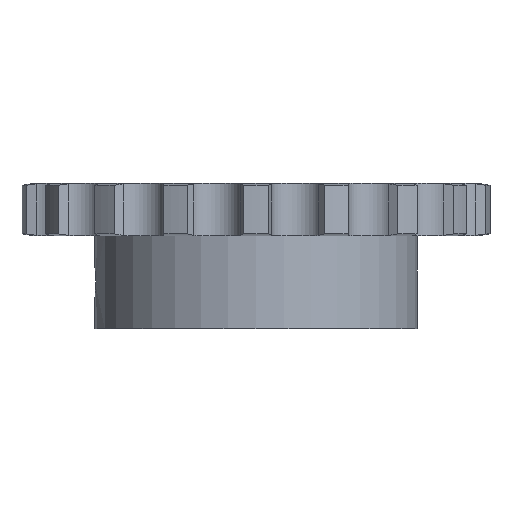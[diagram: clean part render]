
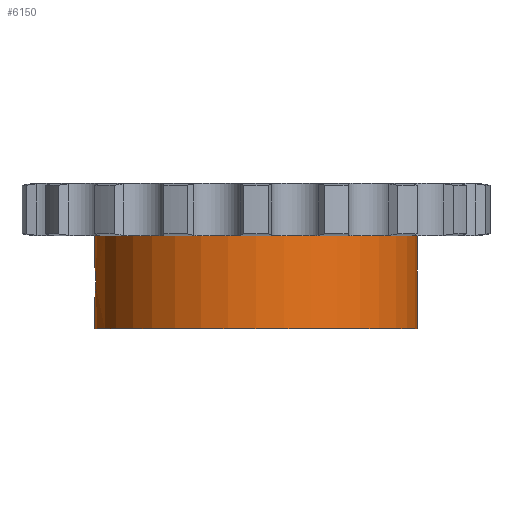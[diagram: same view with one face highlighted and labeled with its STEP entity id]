
A CAD part, front view. The second image highlights one B-rep face of the part: STEP entity #6150.
In plain terms, the highlighted cylindrical face has radius 50 mm (diameter 100 mm), a partial arc.
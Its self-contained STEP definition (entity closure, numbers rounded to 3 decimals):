
#1251=CARTESIAN_POINT('',(0.,0.,-8.1));
#1252=DIRECTION('',(0.,0.,1.));
#1253=DIRECTION('',(-1.,0.,0.));
#1254=AXIS2_PLACEMENT_3D('',#1251,#1252,#1253);
#2958=CARTESIAN_POINT('',(-50.,0.,
-17.5));
#2983=DIRECTION('',(0.,0.,1.));
#2984=VECTOR('',#2983,28.8);
#2985=CARTESIAN_POINT('',(50.,0.,-36.9));
#2986=LINE('',#2985,#2984);
#3112=CARTESIAN_POINT('',(-50.,0.,
-17.5));
#3113=CARTESIAN_POINT('',(-50.,-0.184,
-17.5));
#3114=CARTESIAN_POINT('',(-49.998,-0.58,
-17.521));
#3115=CARTESIAN_POINT('',(-49.987,-1.181,
-17.624));
#3116=CARTESIAN_POINT('',(-49.969,-1.789,
-17.807));
#3117=CARTESIAN_POINT('',(-49.945,-2.369,
-18.063));
#3118=CARTESIAN_POINT('',(-49.916,-2.912,
-18.389));
#3119=CARTESIAN_POINT('',(-49.884,-3.41,
-18.778));
#3120=CARTESIAN_POINT('',(-49.852,-3.852,
-19.224));
#3121=CARTESIAN_POINT('',(-49.821,-4.233,
-19.718));
#3122=CARTESIAN_POINT('',(-49.793,-4.55,
-20.255));
#3123=CARTESIAN_POINT('',(-49.769,-4.797,
-20.827));
#3124=CARTESIAN_POINT('',(-49.752,-4.97,
-21.422));
#3125=CARTESIAN_POINT('',(-49.743,-5.059,
-21.984));
#3126=CARTESIAN_POINT('',(-49.742,-5.076,
-22.343));
#3127=CARTESIAN_POINT('',(-49.742,-5.076,
-22.5));
#3132=DIRECTION('',(0.,0.,1.));
#3133=VECTOR('',#3132,9.4);
#3134=CARTESIAN_POINT('',(-50.,0.,
-17.5));
#3135=LINE('',#3134,#3133);
#3139=DIRECTION('',(0.,0.,1.));
#3140=VECTOR('',#3139,9.4);
#3141=CARTESIAN_POINT('',(-50.,0.,-36.9));
#3142=LINE('',#3141,#3140);
#3146=CARTESIAN_POINT('',(-49.742,-5.076,
-22.5));
#3147=CARTESIAN_POINT('',(-49.742,-5.076,
-22.668));
#3148=CARTESIAN_POINT('',(-49.744,-5.057,
-23.038));
#3149=CARTESIAN_POINT('',(-49.753,-4.963,
-23.609));
#3150=CARTESIAN_POINT('',(-49.77,-4.787,
-24.201));
#3151=CARTESIAN_POINT('',(-49.794,-4.538,
-24.769));
#3152=CARTESIAN_POINT('',(-49.822,-4.22,
-25.302));
#3153=CARTESIAN_POINT('',(-49.853,-3.838,
-25.792));
#3154=CARTESIAN_POINT('',(-49.885,-3.396,
-26.233));
#3155=CARTESIAN_POINT('',(-49.917,-2.9,
-26.62));
#3156=CARTESIAN_POINT('',(-49.945,-2.358,
-26.942));
#3157=CARTESIAN_POINT('',(-49.969,-1.78,
-27.196));
#3158=CARTESIAN_POINT('',(-49.987,-1.175,
-27.378));
#3159=CARTESIAN_POINT('',(-49.998,-0.577,
-27.479));
#3160=CARTESIAN_POINT('',(-50.,-0.183,
-27.5));
#3161=CARTESIAN_POINT('',(-50.,0.,
-27.5));
#3174=CARTESIAN_POINT('',(0.,0.,-36.9));
#3175=DIRECTION('',(0.,0.,-1.));
#3176=DIRECTION('',(1.,0.,0.));
#3177=AXIS2_PLACEMENT_3D('',#3174,#3175,#3176);
#3547=CARTESIAN_POINT('',(-50.,0.,-36.9));
#3548=CARTESIAN_POINT('',(50.,0.,-36.9));
#3549=VERTEX_POINT('',#3547);
#3550=VERTEX_POINT('',#3548);
#3551=CARTESIAN_POINT('',(50.,0.,-8.1));
#3552=VERTEX_POINT('',#3551);
#3553=CARTESIAN_POINT('',(-50.,0.,-8.1));
#3554=VERTEX_POINT('',#3553);
#3752=VERTEX_POINT('',#2958);
#3755=VERTEX_POINT('',#3127);
#3757=VERTEX_POINT('',#3161);
#6134=CARTESIAN_POINT('',(0.,0.,8.1));
#6135=DIRECTION('',(0.,0.,1.));
#6136=DIRECTION('',(1.,0.,0.));
#6137=AXIS2_PLACEMENT_3D('',#6134,#6135,#6136);
#6138=CYLINDRICAL_SURFACE('',#6137,50.);
#6139=ORIENTED_EDGE('',*,*,#6124,.F.);
#6140=ORIENTED_EDGE('',*,*,#5671,.T.);
#6141=ORIENTED_EDGE('',*,*,#5020,.T.);
#6142=ORIENTED_EDGE('',*,*,#5668,.F.);
#6144=ORIENTED_EDGE('',*,*,#6143,.T.);
#6145=ORIENTED_EDGE('',*,*,#5664,.T.);
#6147=ORIENTED_EDGE('',*,*,#6146,.F.);
#6148=EDGE_LOOP('',(#6139,#6140,#6141,#6142,#6144,#6145,#6147));
#6149=FACE_OUTER_BOUND('',#6148,.F.);
#6150=ADVANCED_FACE('',(#6149),#6138,.T.);
#1255=CIRCLE('',#1254,50.);
#3128=B_SPLINE_CURVE_WITH_KNOTS('',3,(#3112,#3113,#3114,#3115,#3116,#3117,#3118,
#3119,#3120,#3121,#3122,#3123,#3124,#3125,#3126,#3127),.UNSPECIFIED.,.F.,.F.,(4,
1,1,1,1,1,1,1,1,1,1,1,1,4),(0.,0.069,0.148,
0.227,0.306,0.385,0.464,
0.543,0.622,0.701,0.78,
0.859,0.938,1.),.UNSPECIFIED.);
#3162=B_SPLINE_CURVE_WITH_KNOTS('',3,(#3146,#3147,#3148,#3149,#3150,#3151,#3152,
#3153,#3154,#3155,#3156,#3157,#3158,#3159,#3160,#3161),.UNSPECIFIED.,.F.,.F.,(4,
1,1,1,1,1,1,1,1,1,1,1,1,4),(0.,0.067,0.145,
0.224,0.303,0.381,0.46,
0.538,0.617,0.696,0.774,
0.853,0.931,1.),.UNSPECIFIED.);
#3178=CIRCLE('',#3177,50.);
#5020=EDGE_CURVE('',#3554,#3552,#1255,.T.);
#5664=EDGE_CURVE('',#3549,#3757,#3142,.T.);
#5668=EDGE_CURVE('',#3550,#3552,#2986,.T.);
#5671=EDGE_CURVE('',#3752,#3554,#3135,.T.);
#6124=EDGE_CURVE('',#3752,#3755,#3128,.T.);
#6143=EDGE_CURVE('',#3550,#3549,#3178,.T.);
#6146=EDGE_CURVE('',#3755,#3757,#3162,.T.);
